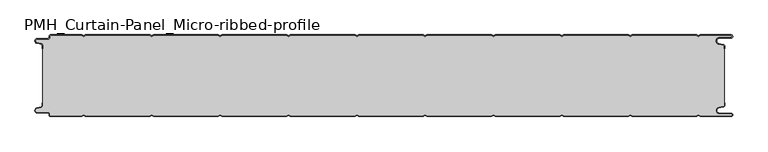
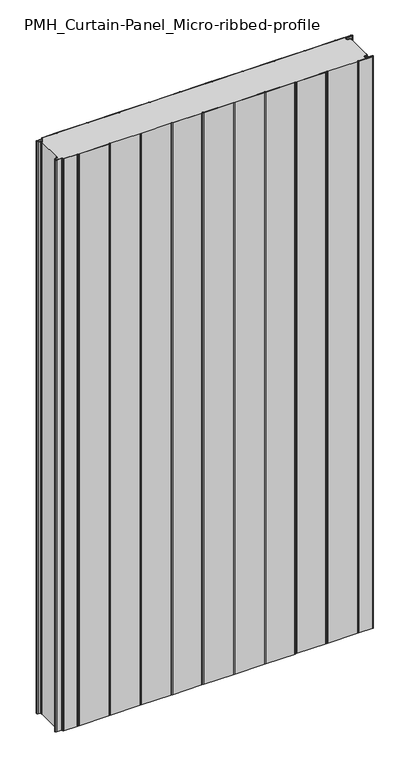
"""IFC4 building model written with IfcOpenShell, lengths in millimetres: plate geometry, PMH_Curtain-Panel_Micro-ribbed-profile : ACH_PMH_Stone-wool-Panel_120M."""

from ifc_helpers import new_model, si_unit, point, frame_2d, origin, origin_with_axes, place, context, project, spatial, polyline, circle_curve, trimmed, segment, composite_curve, outline, extrude, source, transform, mapped, element, save


def pmh_curtain_panel_micro_ribbed_profile_620c4970(model_context):
    return source(origin(), model_context, "Body", "SweptSolid", [
        extrude(outline(composite_curve([segment(trimmed(circle_curve(frame_2d((-502.0, -15.878557)), 2.0), [point((-500.0, -15.878557))], [point((-501.5500978, -13.9298169))], True, "CARTESIAN"), True, "CONTINUOUS"), segment(polyline([(-501.5500978, -13.9298169), (-507.7098239, -12.507732)]), True, "CONTINUOUS"), segment(trimmed(circle_curve(frame_2d((-506.9, -9.0)), 3.6), [point((-507.7098239, -12.507732))], [point((-506.9, -5.4))], False, "CARTESIAN"), True, "CONTINUOUS"), segment(polyline([(-506.9, -5.4), (-491.4, -5.4)]), True, "CONTINUOUS"), segment(trimmed(circle_curve(frame_2d((-491.4, -3.4)), 2.0), [point((-491.4, -5.4))], [point((-489.4, -3.4))], True, "CARTESIAN"), True, "CONTINUOUS"), segment(polyline([(-489.4, -3.4), (-489.4, -2.0)]), True, "CONTINUOUS"), segment(trimmed(circle_curve(frame_2d((-487.4, -2.0)), 2.0), [point((-489.4, -2.0))], [point((-487.4, 0.0))], False, "CARTESIAN"), True, "CONTINUOUS"), segment(polyline([(-487.4, 0.0), (-442.0999995, 0.0), (-439.4, -1.5588455), (-436.7000005, 0.0), (-342.0999995, 0.0), (-339.4, -1.5588455), (-336.7000005, 0.0), (-242.0999995, 0.0), (-239.4, -1.5588455), (-236.7000005, 0.0), (-142.0999995, 0.0), (-139.4, -1.5588455), (-136.7000005, 0.0), (-42.0999995, 0.0), (-39.4, -1.5588455), (-36.7000005, 0.0), (57.9000005, 0.0), (60.6, -1.5588455), (63.2999995, 0.0), (157.9000005, 0.0), (160.6, -1.5588455), (163.2999995, 0.0), (257.9000005, 0.0), (260.6, -1.5588455), (263.2999995, 0.0), (357.9000005, 0.0), (360.6, -1.5588455), (363.2999995, 0.0), (457.9000005, 0.0), (460.6, -1.5588455), (463.2999995, 0.0), (508.1, 0.0)]), True, "CONTINUOUS"), segment(trimmed(circle_curve(frame_2d((508.1, -2.5)), 2.5), [point((508.1, 0.0))], [point((508.1, -5.0))], False, "CARTESIAN"), True, "CONTINUOUS"), segment(polyline([(508.1, -5.0), (491.1, -5.0)]), True, "CONTINUOUS"), segment(trimmed(circle_curve(frame_2d((491.1, -9.0)), 4.0), [point((491.1, -5.0))], [point((490.405407, -12.939231))], True, "CARTESIAN"), True, "CONTINUOUS"), segment(polyline([(490.405407, -12.939231), (496.8514855, -14.0758491)]), True, "CONTINUOUS"), segment(trimmed(circle_curve(frame_2d((496.4, -16.6363492)), 2.6), [point((496.8514855, -14.0758491))], [point((499.0, -16.6363492))], False, "CARTESIAN"), True, "CONTINUOUS"), segment(polyline([(499.0, -16.6363492), (499.0, -20.0), (498.2, -20.0), (498.2, -16.6363492)]), True, "CONTINUOUS"), segment(trimmed(circle_curve(frame_2d((496.4, -16.6363492)), 1.8), [point((498.2, -16.6363492))], [point((496.7125669, -14.8636953))], True, "CARTESIAN"), True, "CONTINUOUS"), segment(polyline([(496.7125669, -14.8636953), (490.2664884, -13.7270772)]), True, "CONTINUOUS"), segment(trimmed(circle_curve(frame_2d((491.1, -9.0)), 4.8), [point((490.2664884, -13.7270772))], [point((491.1, -4.2))], False, "CARTESIAN"), True, "CONTINUOUS"), segment(polyline([(491.1, -4.2), (508.1, -4.2)]), True, "CONTINUOUS"), segment(trimmed(circle_curve(frame_2d((508.1, -2.5)), 1.7), [point((508.1, -4.2))], [point((508.1, -0.8))], True, "CARTESIAN"), True, "CONTINUOUS"), segment(polyline([(508.1, -0.8), (463.5143588, -0.8), (460.6, -2.482606), (457.6856412, -0.8), (363.5143588, -0.8), (360.6, -2.482606), (357.6856412, -0.8), (263.5143588, -0.8), (260.6, -2.482606), (257.6856412, -0.8), (163.5143588, -0.8), (160.6, -2.482606), (157.6856412, -0.8), (63.5143588, -0.8), (60.6, -2.482606), (57.6856412, -0.8), (-36.4856412, -0.8), (-39.4, -2.482606), (-42.3143588, -0.8), (-136.4856412, -0.8), (-139.4, -2.482606), (-142.3143588, -0.8), (-236.4856412, -0.8), (-239.4, -2.482606), (-242.3143588, -0.8), (-336.4856412, -0.8), (-339.4, -2.482606), (-342.3143588, -0.8), (-436.4856412, -0.8), (-439.4, -2.482606), (-442.3143588, -0.8), (-487.4, -0.8)]), True, "CONTINUOUS"), segment(trimmed(circle_curve(frame_2d((-487.4, -2.0)), 1.2), [point((-487.4, -0.8))], [point((-488.6, -2.0))], True, "CARTESIAN"), True, "CONTINUOUS"), segment(polyline([(-488.6, -2.0), (-488.6, -3.4)]), True, "CONTINUOUS"), segment(trimmed(circle_curve(frame_2d((-491.4, -3.4)), 2.8), [point((-488.6, -3.4))], [point((-491.4, -6.2))], False, "CARTESIAN"), True, "CONTINUOUS"), segment(polyline([(-491.4, -6.2), (-506.9, -6.2)]), True, "CONTINUOUS"), segment(trimmed(circle_curve(frame_2d((-506.9, -9.0)), 2.8), [point((-506.9, -6.2))], [point((-507.529863, -11.7282362))], True, "CARTESIAN"), True, "CONTINUOUS"), segment(polyline([(-507.529863, -11.7282362), (-501.370137, -13.150321)]), True, "CONTINUOUS"), segment(trimmed(circle_curve(frame_2d((-502.0, -15.878557)), 2.8), [point((-501.370137, -13.150321))], [point((-499.2, -15.878557))], False, "CARTESIAN"), True, "CONTINUOUS"), segment(polyline([(-499.2, -15.878557), (-499.2, -20.0), (-500.0, -20.0), (-500.0, -15.878557)]), True, "CONTINUOUS")], self_intersect=False)), origin_with_axes(), (0.0, 0.0, 1.0), 1945.7507136),
        extrude(outline(composite_curve([segment(polyline([(-499.2, -104.1214426), (-499.2, -15.8785573)]), True, "CONTINUOUS"), segment(trimmed(circle_curve(frame_2d((-502.0, -15.8785573)), 2.8), [point((-499.2, -15.8785573))], [point((-501.370137, -13.1503212))], True, "CARTESIAN"), True, "CONTINUOUS"), segment(polyline([(-501.370137, -13.1503212), (-507.5298631, -11.7282362)]), True, "CONTINUOUS"), segment(trimmed(circle_curve(frame_2d((-506.9, -9.0)), 2.8), [point((-507.5298631, -11.7282362))], [point((-506.9, -6.2))], False, "CARTESIAN"), True, "CONTINUOUS"), segment(polyline([(-506.9, -6.2), (-491.4000001, -6.2)]), True, "CONTINUOUS"), segment(trimmed(circle_curve(frame_2d((-491.4000001, -3.4)), 2.8), [point((-491.4000001, -6.2))], [point((-488.6000001, -3.4))], True, "CARTESIAN"), True, "CONTINUOUS"), segment(polyline([(-488.6000001, -3.4), (-488.6000001, -2.0)]), True, "CONTINUOUS"), segment(trimmed(circle_curve(frame_2d((-487.4000001, -2.0)), 1.2), [point((-488.6000001, -2.0))], [point((-487.4000001, -0.8))], False, "CARTESIAN"), True, "CONTINUOUS"), segment(polyline([(-487.4000001, -0.8), (-442.3143589, -0.8), (-439.4000001, -2.482606), (-436.4856412, -0.8), (-342.3143589, -0.8), (-339.4000001, -2.482606), (-336.4856412, -0.8), (-242.3143589, -0.8), (-239.4000001, -2.482606), (-236.4856412, -0.8), (-142.3143589, -0.8), (-139.4000001, -2.482606), (-136.4856412, -0.8), (-42.3143589, -0.8), (-39.4000001, -2.482606), (-36.4856412, -0.8), (57.6856411, -0.8), (60.5999999, -2.482606), (63.5143588, -0.8), (157.6856411, -0.8), (160.5999999, -2.482606), (163.5143588, -0.8), (257.6856411, -0.8), (260.5999999, -2.482606), (263.5143588, -0.8), (357.6856411, -0.8), (360.5999999, -2.482606), (363.5143588, -0.8), (457.6856411, -0.8), (460.5999999, -2.482606), (463.5143588, -0.8), (508.0999999, -0.8)]), True, "CONTINUOUS"), segment(trimmed(circle_curve(frame_2d((508.0999999, -2.5)), 1.7), [point((508.0999999, -0.8))], [point((508.0999999, -4.2))], False, "CARTESIAN"), True, "CONTINUOUS"), segment(polyline([(508.0999999, -4.2), (491.0999999, -4.2)]), True, "CONTINUOUS"), segment(trimmed(circle_curve(frame_2d((491.0999999, -9.0)), 4.8), [point((491.0999999, -4.2))], [point((490.2664883, -13.7270771))], True, "CARTESIAN"), True, "CONTINUOUS"), segment(polyline([(490.2664883, -13.7270771), (496.7125668, -14.8636953)]), True, "CONTINUOUS"), segment(trimmed(circle_curve(frame_2d((496.3999999, -16.6363492)), 1.8), [point((496.7125668, -14.8636953))], [point((498.1999999, -16.6363492))], False, "CARTESIAN"), True, "CONTINUOUS"), segment(polyline([(498.1999999, -16.6363492), (498.1999999, -103.3636508)]), True, "CONTINUOUS"), segment(trimmed(circle_curve(frame_2d((496.3999999, -103.3636508)), 1.8), [point((498.1999999, -103.3636508))], [point((496.7125668, -105.1363047))], False, "CARTESIAN"), True, "CONTINUOUS"), segment(polyline([(496.7125668, -105.1363047), (490.2664883, -106.2729229)]), True, "CONTINUOUS"), segment(trimmed(circle_curve(frame_2d((491.0999999, -111.0)), 4.8), [point((490.2664883, -106.2729229))], [point((491.0999999, -115.8))], True, "CARTESIAN"), True, "CONTINUOUS"), segment(polyline([(491.0999999, -115.8), (508.0999999, -115.8)]), True, "CONTINUOUS"), segment(trimmed(circle_curve(frame_2d((508.0999999, -117.5)), 1.7), [point((508.0999999, -115.8))], [point((508.0999999, -119.2))], False, "CARTESIAN"), True, "CONTINUOUS"), segment(polyline([(508.0999999, -119.2), (463.5143588, -119.2), (460.5999999, -117.517394), (457.6856411, -119.2), (363.5143588, -119.2), (360.5999999, -117.517394), (357.6856411, -119.2), (263.5143588, -119.2), (260.5999999, -117.517394), (257.6856411, -119.2), (163.5143588, -119.2), (160.5999999, -117.517394), (157.6856411, -119.2), (63.5143588, -119.2), (60.5999999, -117.517394), (57.6856411, -119.2), (-36.4856412, -119.2), (-39.4000001, -117.517394), (-42.3143589, -119.2), (-136.4856412, -119.2), (-139.4000001, -117.517394), (-142.3143589, -119.2), (-236.4856412, -119.2), (-239.4000001, -117.517394), (-242.3143589, -119.2), (-336.4856412, -119.2), (-339.4000001, -117.517394), (-342.3143589, -119.2), (-436.4856412, -119.2), (-439.4000001, -117.517394), (-442.3143589, -119.2), (-487.4000001, -119.2)]), True, "CONTINUOUS"), segment(trimmed(circle_curve(frame_2d((-487.4000001, -118.0)), 1.2), [point((-487.4000001, -119.2))], [point((-488.6000001, -118.0))], False, "CARTESIAN"), True, "CONTINUOUS"), segment(polyline([(-488.6000001, -118.0), (-488.6000001, -116.6)]), True, "CONTINUOUS"), segment(trimmed(circle_curve(frame_2d((-491.4000001, -116.6)), 2.8), [point((-488.6000001, -116.6))], [point((-491.4000001, -113.8))], True, "CARTESIAN"), True, "CONTINUOUS"), segment(polyline([(-491.4000001, -113.8), (-506.9, -113.8)]), True, "CONTINUOUS"), segment(trimmed(circle_curve(frame_2d((-506.9, -111.0)), 2.8), [point((-506.9, -113.8))], [point((-507.5298631, -108.2717638))], False, "CARTESIAN"), True, "CONTINUOUS"), segment(polyline([(-507.5298631, -108.2717638), (-501.370137, -106.8496788)]), True, "CONTINUOUS"), segment(trimmed(circle_curve(frame_2d((-502.0, -104.1214426)), 2.8), [point((-501.370137, -106.8496788))], [point((-499.2, -104.1214426))], True, "CARTESIAN"), True, "CONTINUOUS")], self_intersect=False)), origin_with_axes(), (0.0, 0.0, 1.0), 1945.7507136),
        extrude(outline(composite_curve([segment(polyline([(-500.0, -104.121443), (-500.0, -100.0), (-499.2, -100.0), (-499.2, -104.121443)]), True, "CONTINUOUS"), segment(trimmed(circle_curve(frame_2d((-502.0, -104.121443)), 2.8), [point((-499.2, -104.121443))], [point((-501.370137, -106.8496792))], False, "CARTESIAN"), True, "CONTINUOUS"), segment(polyline([(-501.370137, -106.8496792), (-507.529863, -108.271764)]), True, "CONTINUOUS"), segment(trimmed(circle_curve(frame_2d((-506.9, -111.0)), 2.8), [point((-507.529863, -108.271764))], [point((-506.9, -113.8))], True, "CARTESIAN"), True, "CONTINUOUS"), segment(polyline([(-506.9, -113.8), (-491.4, -113.8)]), True, "CONTINUOUS"), segment(trimmed(circle_curve(frame_2d((-491.4, -116.6)), 2.8), [point((-491.4, -113.8))], [point((-488.6, -116.6))], False, "CARTESIAN"), True, "CONTINUOUS"), segment(polyline([(-488.6, -116.6), (-488.6, -118.0)]), True, "CONTINUOUS"), segment(trimmed(circle_curve(frame_2d((-487.4, -118.0)), 1.2), [point((-488.6, -118.0))], [point((-487.4, -119.2))], True, "CARTESIAN"), True, "CONTINUOUS"), segment(polyline([(-487.4, -119.2), (-442.3143588, -119.2), (-439.4, -117.517394), (-436.4856412, -119.2), (-342.3143588, -119.2), (-339.4, -117.517394), (-336.4856412, -119.2), (-242.3143588, -119.2), (-239.4, -117.517394), (-236.4856412, -119.2), (-142.3143588, -119.2), (-139.4, -117.517394), (-136.4856412, -119.2), (-42.3143588, -119.2), (-39.4, -117.517394), (-36.4856412, -119.2), (57.6856412, -119.2), (60.6, -117.517394), (63.5143588, -119.2), (157.6856412, -119.2), (160.6, -117.517394), (163.5143588, -119.2), (257.6856412, -119.2), (260.6, -117.517394), (263.5143588, -119.2), (357.6856412, -119.2), (360.6, -117.517394), (363.5143588, -119.2), (457.6856412, -119.2), (460.6, -117.517394), (463.5143588, -119.2), (508.1, -119.2)]), True, "CONTINUOUS"), segment(trimmed(circle_curve(frame_2d((508.1, -117.5)), 1.7), [point((508.1, -119.2))], [point((508.1, -115.8))], True, "CARTESIAN"), True, "CONTINUOUS"), segment(polyline([(508.1, -115.8), (491.1, -115.8)]), True, "CONTINUOUS"), segment(trimmed(circle_curve(frame_2d((491.1, -111.0)), 4.8), [point((491.1, -115.8))], [point((490.2664884, -106.2729229))], False, "CARTESIAN"), True, "CONTINUOUS"), segment(polyline([(490.2664884, -106.2729229), (496.7125669, -105.1363047)]), True, "CONTINUOUS"), segment(trimmed(circle_curve(frame_2d((496.4, -103.3636508)), 1.8), [point((496.7125669, -105.1363047))], [point((498.2, -103.3636508))], True, "CARTESIAN"), True, "CONTINUOUS"), segment(polyline([(498.2, -103.3636508), (498.2, -100.0), (499.0, -100.0), (499.0, -103.3636508)]), True, "CONTINUOUS"), segment(trimmed(circle_curve(frame_2d((496.4, -103.3636508)), 2.6), [point((499.0, -103.3636508))], [point((496.8514855, -105.9241509))], False, "CARTESIAN"), True, "CONTINUOUS"), segment(polyline([(496.8514855, -105.9241509), (490.405407, -107.060769)]), True, "CONTINUOUS"), segment(trimmed(circle_curve(frame_2d((491.1, -111.0)), 4.0), [point((490.405407, -107.060769))], [point((491.1, -115.0))], True, "CARTESIAN"), True, "CONTINUOUS"), segment(polyline([(491.1, -115.0), (508.1, -115.0)]), True, "CONTINUOUS"), segment(trimmed(circle_curve(frame_2d((508.1, -117.5)), 2.5), [point((508.1, -115.0))], [point((508.1, -120.0))], False, "CARTESIAN"), True, "CONTINUOUS"), segment(polyline([(508.1, -120.0), (463.2999995, -120.0), (460.6, -118.4411545), (457.9000005, -120.0), (363.2999995, -120.0), (360.6, -118.4411545), (357.9000005, -120.0), (263.2999995, -120.0), (260.6, -118.4411545), (257.9000005, -120.0), (163.2999995, -120.0), (160.6, -118.4411545), (157.9000005, -120.0), (63.2999995, -120.0), (60.6, -118.4411545), (57.9000005, -120.0), (-36.7000005, -120.0), (-39.4, -118.4411545), (-42.0999995, -120.0), (-136.7000005, -120.0), (-139.4, -118.4411545), (-142.0999995, -120.0), (-236.7000005, -120.0), (-239.4, -118.4411545), (-242.0999995, -120.0), (-336.7000005, -120.0), (-339.4, -118.4411545), (-342.0999995, -120.0), (-436.7000005, -120.0), (-439.4, -118.4411545), (-442.0999995, -120.0), (-487.4, -120.0)]), True, "CONTINUOUS"), segment(trimmed(circle_curve(frame_2d((-487.4, -118.0)), 2.0), [point((-487.4, -120.0))], [point((-489.4, -118.0))], False, "CARTESIAN"), True, "CONTINUOUS"), segment(polyline([(-489.4, -118.0), (-489.4, -116.6)]), True, "CONTINUOUS"), segment(trimmed(circle_curve(frame_2d((-491.4, -116.6)), 2.0), [point((-489.4, -116.6))], [point((-491.4, -114.6))], True, "CARTESIAN"), True, "CONTINUOUS"), segment(polyline([(-491.4, -114.6), (-506.9, -114.6)]), True, "CONTINUOUS"), segment(trimmed(circle_curve(frame_2d((-506.9, -111.0)), 3.6), [point((-506.9, -114.6))], [point((-507.7098239, -107.4922678))], False, "CARTESIAN"), True, "CONTINUOUS"), segment(polyline([(-507.7098239, -107.4922678), (-501.5500979, -106.070183)]), True, "CONTINUOUS"), segment(trimmed(circle_curve(frame_2d((-502.0, -104.121443)), 2.0), [point((-501.5500979, -106.070183))], [point((-500.0, -104.121443))], True, "CARTESIAN"), True, "CONTINUOUS")], self_intersect=False)), origin_with_axes(), (0.0, 0.0, 1.0), 1945.7507136),
    ])


if __name__ == "__main__":
    model = new_model("IFC4")
    model_context = context("Model", 3, world=origin())
    ifc_project = project(units=[si_unit("LENGTHUNIT", "METRE", prefix="MILLI")], contexts=[model_context])
    site = spatial("IfcSite", under=ifc_project)
    building = spatial("IfcBuilding", under=site)
    placement = place(None, origin())
    pmh_curtain_panel_micro_ribbed_profile_shape = pmh_curtain_panel_micro_ribbed_profile_620c4970(model_context)
    element("IfcPlate", 1, ObjectType="PMH_Curtain-Panel_Micro-ribbed-profile : ACH_PMH_Stone-wool-Panel_120M", at=placement, inside=building, context=model_context, shape_type="MappedRepresentation", body=[
        mapped(pmh_curtain_panel_micro_ribbed_profile_shape, transform((0.0, 0.0, 0.0), x_axis=(1.0, 0.0, 0.0), y_axis=(0.0, 1.0, 0.0), z_axis=(0.0, 0.0, 1.0))),
    ])
    save(model, "model.ifc")
